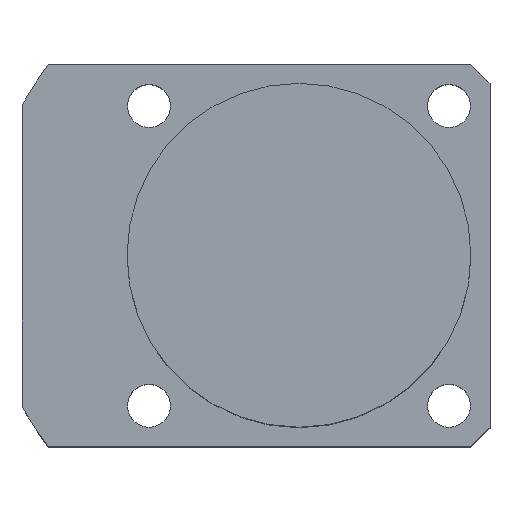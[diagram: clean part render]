
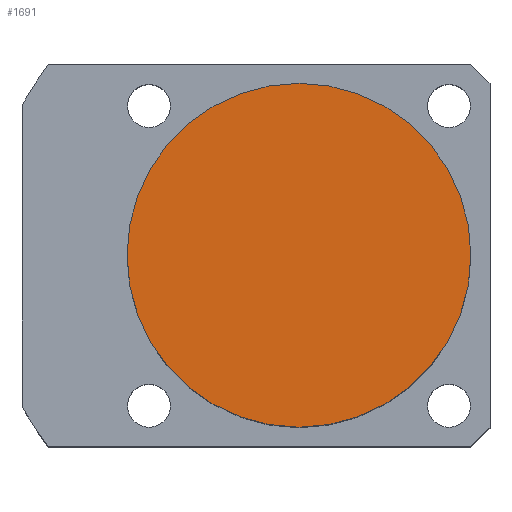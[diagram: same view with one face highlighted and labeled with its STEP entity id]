
A CAD part, top view. The second image highlights one B-rep face of the part: STEP entity #1691.
In plain terms, the highlighted planar face has unit normal (0, 0, 1).
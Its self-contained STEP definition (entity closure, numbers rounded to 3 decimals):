
#43 = VERTEX_POINT ( 'NONE', #805 ) ;
#107 = CARTESIAN_POINT ( 'NONE',  ( 0., 0., 43.5 ) ) ;
#124 = VERTEX_POINT ( 'NONE', #2000 ) ;
#152 = EDGE_LOOP ( 'NONE', ( #237, #1019 ) ) ;
#237 = ORIENTED_EDGE ( 'NONE', *, *, #1570, .T. ) ;
#392 = AXIS2_PLACEMENT_3D ( 'NONE', #466, #1617, #1147 ) ;
#401 = EDGE_CURVE ( 'NONE', #43, #124, #1903, .T. ) ;
#449 = DIRECTION ( 'NONE',  ( 1., 0., 0. ) ) ;
#458 = DIRECTION ( 'NONE',  ( 0., 0., 1. ) ) ;
#466 = CARTESIAN_POINT ( 'NONE',  ( 0., 0., 43.5 ) ) ;
#805 = CARTESIAN_POINT ( 'NONE',  ( 18., 0., 43.5 ) ) ;
#1019 = ORIENTED_EDGE ( 'NONE', *, *, #401, .T. ) ;
#1081 = AXIS2_PLACEMENT_3D ( 'NONE', #107, #1909, #2047 ) ;
#1116 = FACE_OUTER_BOUND ( 'NONE', #152, .T. ) ;
#1147 = DIRECTION ( 'NONE',  ( 1., 0., 0. ) ) ;
#1167 = CIRCLE ( 'NONE', #392, 18. ) ;
#1525 = AXIS2_PLACEMENT_3D ( 'NONE', #2078, #458, #449 ) ;
#1570 = EDGE_CURVE ( 'NONE', #124, #43, #1167, .T. ) ;
#1617 = DIRECTION ( 'NONE',  ( 0., 0., 1. ) ) ;
#1691 = ADVANCED_FACE ( 'NONE', ( #1116 ), #2060, .T. ) ;
#1903 = CIRCLE ( 'NONE', #1525, 18. ) ;
#1909 = DIRECTION ( 'NONE',  ( 0., 0., 1. ) ) ;
#2000 = CARTESIAN_POINT ( 'NONE',  ( -18., 0., 43.5 ) ) ;
#2047 = DIRECTION ( 'NONE',  ( 1., 0., 0. ) ) ;
#2060 = PLANE ( 'NONE',  #1081 ) ;
#2078 = CARTESIAN_POINT ( 'NONE',  ( 0., 0., 43.5 ) ) ;
